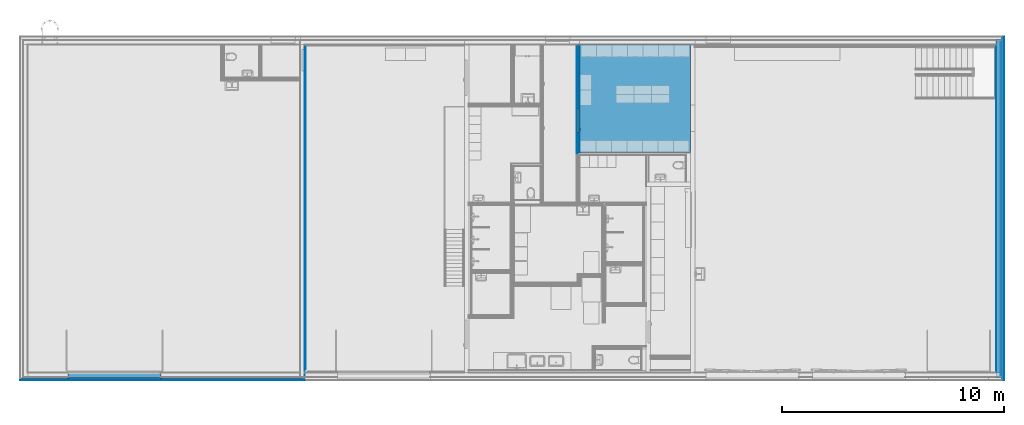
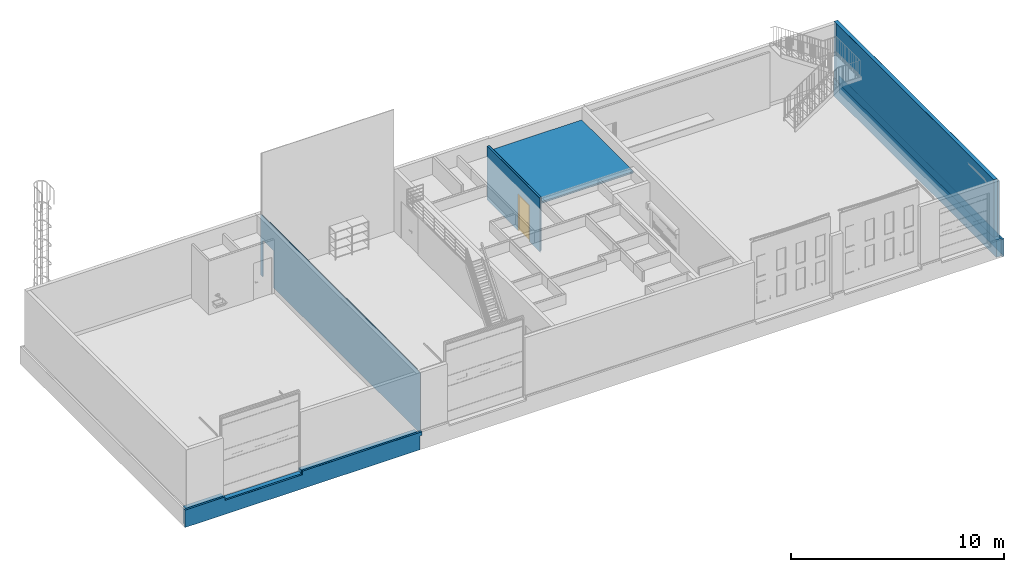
# One storey, part 10 of 67: 16 building element parts, 1 door, 3 openings, 7 elements without a shape of their own.
"""IFC4 building model written with IfcOpenShell, lengths in millimetres."""

from ifc_helpers import new_model, entity, si_unit, converted_unit, direction, frame, origin, place, context, subcontext, project, spatial, indexed_curve, outline, extrude, polygons, source, transform, mapped, material, constituent, constituent_set, type_object, type_shapes, element, fill, aggregate, save


model = new_model("IFC4")

# Units and contexts
model_context = context("Model", 3, precision=0.01, world=origin(), true_north=direction((0.0, 1.0)))
body_context = subcontext(model_context, "Body", "Model", "MODEL_VIEW")
ifc_project = project(units=[si_unit("LENGTHUNIT", "METRE", prefix="MILLI"), si_unit("AREAUNIT", "SQUARE_METRE"), si_unit("VOLUMEUNIT", "CUBIC_METRE"), converted_unit("PLANEANGLEUNIT", "DEGREE", entity("IfcPlaneAngleMeasure", 0.017453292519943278), si_unit("PLANEANGLEUNIT", "RADIAN"), dimensions=[0, 0, 0, 0, 0, 0, 0])], contexts=[model_context])

# Site, building, storey
site_placement = place(None, origin())
site = spatial("IfcSite", under=ifc_project, at=site_placement, Name="Tomtens navn", CompositionType="ELEMENT")
building_placement = place(site_placement, origin())
building = spatial("IfcBuilding", under=site, at=building_placement, Name="Byggets navn", CompositionType="ELEMENT")
storey_placement = place(building_placement, origin())
storey = spatial("IfcBuildingStorey", under=building, at=storey_placement, Name="Level 01", CompositionType="ELEMENT", Elevation=2.1993652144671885e-25)

# Door
ifc_material_1 = material(Name="Rustfritt Stål", Category="Metal")
ifc_constituent_1 = constituent(ifc_material_1, Name="Rustfritt Stål", Category="Metal", fraction=0.0016552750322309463)
ifc_material_2 = material(Name="Hvit", Category="Paint")
ifc_constituent_2 = constituent(ifc_material_2, Name="Hvit", Category="Paint", fraction=0.998344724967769)
ifc_constituent_set_1 = constituent_set(constituents=[ifc_constituent_1, ifc_constituent_2])
ifc_constituent_3 = constituent(ifc_material_1, Name="Rustfritt Stål", Category="Metal", fraction=0.0008283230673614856)
ifc_constituent_4 = constituent(ifc_material_2, Name="Panel", Category="Paint", fraction=0.4995858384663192)
ifc_constituent_5 = constituent(ifc_material_2, Name="Frame/Mullion", Category="Paint", fraction=0.4995858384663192)
ifc_constituent_set_2 = constituent_set(constituents=[ifc_constituent_3, ifc_constituent_4, ifc_constituent_5])
door_type = type_object("IfcDoorType", Name="Enfløyet:ID08 11x21M EI60CSa", OperationType="SINGLE_SWING_LEFT", PredefinedType="DOOR", material=ifc_constituent_set_2)
shared_shape = source(origin(), body_context, "Body", "SweptSolid", [
    extrude(outline(indexed_curve([(-33.33333333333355, -50.833333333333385), (24.166666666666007, -50.83333333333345), (24.16666666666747, 86.66666666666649), (9.166666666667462, 86.66666666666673), (9.166666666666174, -35.83333333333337), (-33.33333333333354, -35.83333333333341), (-33.33333333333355, -50.833333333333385)], self_intersect=False)), frame((968.6666666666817, 119.94103942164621, 980.5000000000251), z_axis=(0.0, 0.0, 1.0), x_axis=(0.0, 1.0, 0.0)), (0.0, 0.0, 1.0), 14.999999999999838),
    extrude(outline(indexed_curve([(-2.8000000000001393, -25.000000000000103), (2.799999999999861, -25.000000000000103), (2.8000000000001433, 24.999999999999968), (-2.799999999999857, 24.9999999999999), (-2.8000000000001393, -25.000000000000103)], self_intersect=False)), frame((1012.0, 83.8000000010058, 850.9862950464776), z_axis=(0.0, 0.0, 1.0), x_axis=(0.0, -1.0, 0.0)), (0.0, 0.0, 1.0), 159.01370495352),
    extrude(outline(indexed_curve([(-50.83333333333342, -33.33333333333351), (-35.83333333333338, -33.33333333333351), (-35.83333333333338, 9.166666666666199), (86.66666666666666, 9.166666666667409), (86.66666666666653, 24.1666666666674), (-50.83333333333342, 24.166666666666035), (-50.83333333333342, -33.33333333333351)], self_intersect=False)), frame((968.6666666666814, 2.0589605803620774, 980.5000000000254), z_axis=(0.0, 0.0, 1.0), x_axis=(-1.0, 0.0, 0.0)), (0.0, 0.0, 1.0), 14.999999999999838),
    extrude(outline(indexed_curve([(-25.0, -2.799999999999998), (25.0, -2.799999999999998), (24.999999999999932, 2.800000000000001), (-25.0, 2.800000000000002), (-25.0, -2.799999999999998)], self_intersect=False)), frame((1012.0, 38.20000000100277, 850.9862950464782)), (0.0, 0.0, 1.0), 159.01370495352),
    extrude(outline(indexed_curve([(-506.99999999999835, -20.0), (506.99999999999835, -20.0), (506.99999999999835, 20.0), (-506.99999999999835, 20.0), (-506.99999999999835, -20.0)], self_intersect=False)), frame((555.0, 61.000000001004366, 10.0)), (0.0, 0.0, 1.0), 2042.0),
    extrude(outline(indexed_curve([(506.99999999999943, -1035.5000000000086), (544.9999999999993, -1035.5000000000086), (544.9999999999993, 1054.5000000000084), (-544.9999999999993, 1054.5000000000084), (-544.9999999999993, -1035.5000000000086), (-506.9999999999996, -1035.5000000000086), (-506.9999999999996, 1016.5000000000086), (506.9999999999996, 1016.5000000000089), (506.99999999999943, -1035.5000000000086)], self_intersect=False)), frame((555.0, 81.00000000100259, 1035.5000000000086), z_axis=(0.0, -1.0, 0.0), x_axis=(1.0, 0.0, 0.0)), (0.0, 0.0, 1.0), 99.99999999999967),
])
type_shapes(door_type, [shared_shape])
wall_2_placement = place(storey_placement, frame((63555.35352810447, 22861.466456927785, 0.0), z_axis=(0.0, 0.0, 1.0), x_axis=(0.0, -1.0, 0.0)))
opening_2_placement = place(wall_2_placement, frame((2870.5000000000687, -60.500000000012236, 0.0)))
door_placement = place(opening_2_placement, frame((0.0, 20.0, 0.0)))
door = element("IfcDoor", 1, at=door_placement, inside=storey, type_object=door_type, material=ifc_constituent_set_1, Name="Enfløyet:ID08 11x21M EI60CSa", OverallHeight=2110.000000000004, OverallWidth=1109.9999999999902, PredefinedType="DOOR", context=body_context, shape_type="MappedRepresentation", body=[
    mapped(shared_shape, transform((0.0, 0.0, 0.0), scale=1.0)),
])

# Wall, opening, building element part
wall_type_1 = type_object("IfcWallType", Name="Basic Wall:YV02 Sandwichvegg 200", PredefinedType="STANDARD")
wall_1_placement = place(storey_placement, frame((51112.85352810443, 7861.46645692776, 0.0), z_axis=(0.0, 0.0, 1.0), x_axis=(0.0, 1.0, 0.0)))
wall_1 = element("IfcWall", 2, at=wall_1_placement, inside=storey, type_object=wall_type_1, Name="Basic Wall:YV02 Sandwichvegg 200", PredefinedType="NOTDEFINED")
opening_1_placement = place(wall_1_placement, frame((14805.0, 100.0, 0.0)))
element("IfcOpeningElement", 3, at=opening_1_placement, cuts=wall_1, Name="Enfløyet:ID13 Ståldør 10x21M EI30Sa:1", PredefinedType="OPENING", context=body_context, shape_type="SweptSolid", body=[
    extrude(outline(indexed_curve([(0.0, -8.121503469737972e-13), (2110.000000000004, -8.121503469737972e-13), (2110.000000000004, 1009.9999999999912), (0.0, 1009.9999999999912), (0.0, -8.121503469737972e-13)], self_intersect=False)), frame((0.0, 0.0, 0.0), z_axis=(0.0, -1.0, 0.0), x_axis=(0.0, 0.0, 1.0)), (0.0, 0.0, 1.0), 200.0),
])
building_element_part_1_placement = place(wall_1_placement, frame((0.0, -98.0, 0.0)))
building_element_part_1 = element("IfcBuildingElementPart", 4, at=building_element_part_1_placement, material=ifc_material_1, Name="Rustfritt Stål", context=body_context, shape_type="Tessellation", body=[
    polygons([(14805.0, 5.534690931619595e-13, 7.331217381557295e-26), (14999.99999999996, 8.712065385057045e-13, 7.331217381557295e-26), (14999.99999999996, -1.9999999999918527, 2.1993652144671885e-25), (14953.99999999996, -1.9999999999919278, 2.1993652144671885e-25), (14805.0, -1.9999999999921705, 2.1993652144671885e-25), (14804.999999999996, 5.534690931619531e-13, 200.00000000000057), (14805.0, -1.9999999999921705, 200.0000000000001), (14805.0, -1.9999999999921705, 2110.000000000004), (14805.0, 5.534690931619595e-13, 2110.000000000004), (13795.000000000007, -1.0922479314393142e-12, 7.331217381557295e-26), (13795.000000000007, -1.0922479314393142e-12, 200.00000000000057), (13795.000000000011, 6.183709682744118e-12, 2110.0000000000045), (13795.000000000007, -1.9999999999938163, 2110.000000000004), (13795.000000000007, -1.9999999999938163, 200.0), (13795.000000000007, -1.9999999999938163, 2.1993652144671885e-25), (2.7284841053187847e-12, -1.7422625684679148e-12, 7.331217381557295e-26), (349.99999999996, -1.999999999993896, 2.1993652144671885e-25), (2.7284841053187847e-12, -1.9999999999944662, 2.1993652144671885e-25), (9.094947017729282e-13, -1.742262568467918e-12, 200.0), (9.094947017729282e-13, -1.9999999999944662, 199.99999999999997), (2.7284841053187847e-12, -1.9999999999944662, 3499.999999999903), (2.7284841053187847e-12, -1.7422625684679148e-12, 3499.999999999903), (14999.99999999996, 8.712065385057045e-13, 200.0), (14999.99999999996, 8.712065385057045e-13, 3499.999999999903), (14999.99999999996, -1.9999999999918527, 3499.999999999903), (14999.99999999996, -1.9999999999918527, 200.0), (14953.99999999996, -1.9999999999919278, 3499.999999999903), (349.9999999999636, -1.999999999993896, 3499.999999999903), (199.99999999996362, -1.9999999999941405, 3499.999999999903)], [[[1, 2, 3, 4, 5]], [[6, 1, 5, 7, 8, 9]], [[10, 11, 12, 13, 14, 15]], [[16, 10, 15, 17, 18]], [[19, 16, 18, 20, 21, 22]], [[2, 23, 24, 25, 26, 3]], [[11, 10, 16, 19, 22, 24, 23, 2, 1, 6, 9, 12]], [[18, 17, 15, 14, 13, 8, 7, 5, 4, 3, 26, 25, 27, 28, 29, 21, 20]], [[12, 9, 8, 13]], [[24, 22, 21, 29, 28, 27, 25]]], closed=True),
])
aggregate(wall_1, [building_element_part_1])

# Wall, opening
wall_type_2 = type_object("IfcWallType", Name="Basic Wall:IV03 Gips Stender Forestia 120mm", PredefinedType="STANDARD")
wall_2 = element("IfcWall", 5, at=wall_2_placement, inside=storey, type_object=wall_type_2, Name="Basic Wall:IV03 Gips Stender Forestia 120mm", PredefinedType="NOTDEFINED")
opening_2 = element("IfcOpeningElement", 6, at=opening_2_placement, cuts=wall_2, Name="Enfløyet:ID08 11x21M EI60CSa:1", PredefinedType="OPENING", context=body_context, shape_type="SweptSolid", body=[
    extrude(outline(indexed_curve([(0.0, -3.0758210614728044e-27), (2110.000000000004, -3.0758210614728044e-27), (2110.000000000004, 1109.9999999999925), (0.0, 1109.9999999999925), (0.0, -3.0758210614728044e-27)], self_intersect=False)), frame((0.0, 0.0, 0.0), z_axis=(0.0, 1.0, 0.0), x_axis=(0.0, 0.0, 1.0)), (0.0, 0.0, 1.0), 120.99999999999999),
])

fill(opening_2, door)

# Building element part
ifc_material_3 = material(Name="Stender", Category="Unassigned")
building_element_part_2_placement = place(wall_2_placement, frame((4883.0, -47.49999999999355, 0.0)))
building_element_part_2 = element("IfcBuildingElementPart", 7, at=building_element_part_2_placement, material=ifc_material_3, Name="Stender", context=body_context, shape_type="Tessellation", body=[
    polygons([(-2012.4999999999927, 94.99999999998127, 200.0000000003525), (-2012.4999999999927, 94.99999999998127, 7.331217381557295e-26), (-4883.000000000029, 94.9999999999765, 7.331217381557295e-26), (-4883.0, 94.9999999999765, 200.00000000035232), (-4885.0, 94.9999999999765, 200.0000000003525), (-4885.0, 94.99999999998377, 3079.9999999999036), (-4885.0, 94.9999999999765, 3087.999999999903), (0.0, 94.99999999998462, 3087.999999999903), (0.0, 94.99999999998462, 3079.9999999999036), (3.637978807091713e-12, 94.99999999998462, 200.0000000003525), (3.637978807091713e-12, 94.99999999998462, 7.331217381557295e-26), (-902.5000000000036, 94.99999999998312, 7.331217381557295e-26), (-902.5000000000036, 94.99999999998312, 200.0000000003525), (-902.5000000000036, 94.99999999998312, 2110.000000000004), (-2012.4999999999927, 94.99999999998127, 2110.000000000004), (3.637978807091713e-12, -8.099713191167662e-12, 7.331217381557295e-26), (-902.5000000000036, -9.602046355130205e-12, 7.331217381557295e-26), (-902.5000000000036, -9.602046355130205e-12, 200.00000000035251), (-902.5000000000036, -9.602046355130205e-12, 2110.000000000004), (-2012.4999999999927, -1.1449791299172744e-11, 2110.000000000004), (-2012.4999999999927, -1.1449791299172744e-11, 200.00000000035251), (-2012.4999999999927, -1.1449791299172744e-11, 7.331217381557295e-26), (-4883.000000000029, -1.6762110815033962e-12, 7.331217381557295e-26), (-4883.0, -1.676211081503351e-12, 200.0000000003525), (3.637978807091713e-12, -8.099713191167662e-12, 200.0000000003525), (0.0, -8.099713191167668e-12, 3079.9999999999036), (3.637978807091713e-12, -8.099713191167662e-12, 3087.999999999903), (-4885.0, -1.679540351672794e-12, 3087.999999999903), (-4885.0, -8.95549796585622e-12, 3079.9999999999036), (-4885.0, -1.679540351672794e-12, 200.0000000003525)], [[[1, 2, 3, 4, 5, 6, 7, 8, 9, 10, 11, 12, 13, 14, 15]], [[12, 11, 16, 17]], [[13, 12, 17, 18, 19, 14]], [[2, 1, 15, 20, 21, 22]], [[3, 2, 22, 23]], [[4, 3, 23, 24]], [[23, 22, 21, 20, 19, 18, 17, 16, 25, 26, 27, 28, 29, 30, 24]], [[16, 11, 10, 9, 8, 27, 26, 25]], [[30, 5, 4, 24]], [[15, 14, 19, 20]], [[8, 7, 28, 27]], [[5, 30, 29, 28, 7, 6]]], closed=True),
])

ifc_material_4 = material(Name="NO_platekledning forestia", Category="Tre")
building_element_part_3_placement = place(wall_2_placement, frame((4870.0, 47.49999999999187, 0.0)))
building_element_part_3 = element("IfcBuildingElementPart", 8, at=building_element_part_3_placement, material=ifc_material_4, Name="NO_platekledning forestia", context=body_context, shape_type="Tessellation", body=[
    polygons([(-889.5000000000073, -2.3260887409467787e-12, 7.331217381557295e-26), (-889.5000000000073, 13.00000000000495, 2.1993652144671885e-25), (0.0, 13.00000000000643, 2.1993652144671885e-25), (0.0, -8.453958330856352e-13, 7.331217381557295e-26), (-889.5000000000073, 13.00000000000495, 200.0000000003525), (-889.5000000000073, -2.3260887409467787e-12, 200.00000000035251), (-889.5000000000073, -2.3260887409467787e-12, 2110.000000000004), (-889.5000000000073, 13.00000000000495, 2110.000000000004), (-1999.4999999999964, -4.173833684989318e-12, 7.331217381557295e-26), (-1999.4999999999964, 13.000000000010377, 2.1993652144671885e-25), (-1999.4999999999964, 13.000000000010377, 200.00000000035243), (-1999.4999999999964, 13.000000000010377, 2110.000000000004), (-1999.4999999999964, -4.173833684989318e-12, 2110.000000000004), (-1999.4999999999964, -4.173833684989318e-12, 200.00000000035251), (-4870.000000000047, 13.000000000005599, 2.1993652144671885e-25), (-4870.000000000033, -8.952168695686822e-12, 7.331217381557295e-26), (-4870.000000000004, -1.676211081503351e-12, 200.0000000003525), (-4870.000000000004, -1.676211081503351e-12, 3079.9999999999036), (-4870.000000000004, -8.952168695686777e-12, 3087.999999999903), (-4870.000000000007, 13.000000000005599, 3087.999999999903), (-4870.000000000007, 13.000000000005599, 3079.999999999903), (-4870.00000000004, 13.000000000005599, 200.0000000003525), (0.0, 13.00000000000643, 200.00000000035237), (0.0, 13.00000000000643, 3079.999999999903), (0.0, 13.00000000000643, 3087.999999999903), (0.0, -8.453958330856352e-13, 3087.999999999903), (0.0, -8.453958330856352e-13, 3079.9999999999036), (0.0, -8.453958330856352e-13, 200.0000000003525)], [[[1, 2, 3, 4]], [[5, 2, 1, 6, 7, 8]], [[9, 10, 11, 12, 13, 14]], [[15, 10, 9, 16]], [[15, 16, 17, 18, 19, 20, 21, 22]], [[3, 23, 24, 25, 26, 27, 28, 4]], [[2, 5, 8, 12, 11, 10, 15, 22, 21, 20, 25, 24, 23, 3]], [[13, 12, 8, 7]], [[25, 20, 19, 26]], [[6, 1, 4, 28, 27, 26, 19, 18, 17, 16, 9, 14, 13, 7]]], closed=True),
])

ifc_material_5 = material(Name="Gipsplater", Category="NOR ^ Gips")
building_element_part_4_placement = place(wall_2_placement, frame((4978.0, -60.500000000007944, 0.0)))
building_element_part_4 = element("IfcBuildingElementPart", 9, at=building_element_part_4_placement, material=ifc_material_5, Name="Gipsplater", context=body_context, shape_type="Tessellation", body=[
    polygons([(-2107.4999999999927, 13.000000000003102, 200.0000000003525), (-2107.4999999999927, 13.000000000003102, 7.331217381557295e-26), (-4978.000000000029, 13.000000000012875, 7.331217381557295e-26), (-4978.0, 13.000000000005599, 200.00000000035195), (-4978.0, 13.000000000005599, 3079.9999999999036), (-4978.0, 13.000000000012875, 3087.999999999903), (-3.637978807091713e-12, 13.00000000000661, 3087.999999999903), (0.0, 13.00000000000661, 3079.9999999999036), (3.637978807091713e-12, 13.00000000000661, 200.0000000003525), (3.637978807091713e-12, 13.00000000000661, 7.331217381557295e-26), (-997.5000000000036, 13.00000000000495, 7.331217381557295e-26), (-997.5000000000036, 13.00000000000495, 200.0000000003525), (-997.5000000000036, 13.00000000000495, 2110.000000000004), (-2107.4999999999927, 13.000000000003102, 2110.000000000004), (3.637978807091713e-12, 6.610342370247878e-12, 2.1993652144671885e-25), (-997.5000000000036, 4.949868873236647e-12, 2.1993652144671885e-25), (-997.5000000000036, 4.949868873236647e-12, 200.00000000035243), (-997.5000000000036, 4.949868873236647e-12, 2110.000000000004), (-2107.4999999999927, 1.0378081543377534e-11, 2110.0000000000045), (-2107.4999999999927, 1.0378081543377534e-11, 200.0000000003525), (-2107.4999999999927, 1.0378081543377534e-11, 2.1993652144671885e-25), (-4978.000000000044, 5.599746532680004e-12, 2.1993652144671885e-25), (-4978.000000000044, 5.599746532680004e-12, 200.00000000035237), (-4978.0000000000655, 5.599746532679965e-12, 3079.999999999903), (-4978.000000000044, 5.599746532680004e-12, 3087.999999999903), (3.637978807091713e-12, 6.610342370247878e-12, 200.0000000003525), (0.0, 6.610342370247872e-12, 3079.9999999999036), (3.637978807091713e-12, 6.610342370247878e-12, 3087.999999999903)], [[[1, 2, 3, 4, 5, 6, 7, 8, 9, 10, 11, 12, 13, 14]], [[11, 10, 15, 16]], [[12, 11, 16, 17, 18, 13]], [[2, 1, 14, 19, 20, 21]], [[3, 2, 21, 22]], [[4, 3, 22, 23, 24, 25, 6, 5]], [[23, 22, 21, 20, 19, 18, 17, 16, 15, 26, 27, 28, 25, 24]], [[26, 15, 10, 9, 8, 7, 28, 27]], [[14, 13, 18, 19]], [[7, 6, 25, 28]]], closed=True),
])

aggregate(wall_2, [building_element_part_2, building_element_part_3, building_element_part_4])

# Covering, building element parts
covering_type = type_object("IfcCoveringType", Name="Compound Ceiling:H01 257_Systemhimling 600x600, tykkelse 100", PredefinedType="CEILING")
covering_placement = place(storey_placement, origin())
covering = element("IfcCovering", 10, at=covering_placement, inside=storey, type_object=covering_type, Name="Compound Ceiling:H01 257_Systemhimling 600x600, tykkelse 100", PredefinedType="CEILING")
ifc_material_6 = material(Name="NO_Himling (type ikke bestemt)", Category="Diverse")
building_element_part_5_placement = place(covering_placement, origin())
building_element_part_5 = element("IfcBuildingElementPart", 11, at=building_element_part_5_placement, material=ifc_material_6, Name="NO_Himling (type ikke bestemt)", context=body_context, shape_type="SweptSolid", body=[
    extrude(outline(indexed_curve([(-2435.000000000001, -2503.499999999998), (2435.0000000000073, -2503.499999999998), (2434.9999999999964, 2503.499999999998), (-2435.0000000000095, 2503.499999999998), (-2435.000000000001, -2503.499999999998)], self_intersect=False)), frame((66119.35352810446, 20426.466456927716, 2720.0), z_axis=(0.0, 0.0, 1.0), x_axis=(0.0, -1.0, 0.0)), (0.0, 0.0, 1.0), 80.00000000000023),
])
ifc_material_7 = material(Name="NO_Himling 600x600", Category="Diverse")
building_element_part_6_placement = place(covering_placement, origin())
building_element_part_6 = element("IfcBuildingElementPart", 12, at=building_element_part_6_placement, material=ifc_material_7, Name="NO_Himling 600x600", context=body_context, shape_type="SweptSolid", body=[
    extrude(outline(indexed_curve([(-2435.000000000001, -2503.499999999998), (2435.0000000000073, -2503.499999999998), (2434.9999999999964, 2503.499999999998), (-2435.0000000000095, 2503.499999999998), (-2435.000000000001, -2503.499999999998)], self_intersect=False)), frame((66119.35352810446, 20426.466456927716, 2700.0), z_axis=(0.0, 0.0, 1.0), x_axis=(0.0, -1.0, 0.0)), (0.0, 0.0, 1.0), 19.999999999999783),
])
aggregate(covering, [building_element_part_5, building_element_part_6])

# Wall, building element part
wall_type_3 = type_object("IfcWallType", Name="Basic Wall:IV17 - Utforing lekt+fasadeplater", PredefinedType="STANDARD")
wall_3_placement = place(storey_placement, frame((51235.85352810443, 8211.46645692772, 0.0), z_axis=(0.0, 0.0, 1.0), x_axis=(0.0, 1.0, 0.0)))
wall_3 = element("IfcWall", 13, at=wall_3_placement, inside=storey, type_object=wall_type_3, Name="Basic Wall:IV17 - Utforing lekt+fasadeplater", PredefinedType="NOTDEFINED")
ifc_material_8 = material(Name="NO_platekledning", Category="Tre")
building_element_part_7_placement = place(wall_3_placement, frame((0.0, -13.0, 0.0)))
building_element_part_7 = element("IfcBuildingElementPart", 14, at=building_element_part_7_placement, material=ifc_material_8, Name="NO_platekledning", context=body_context, shape_type="Tessellation", body=[
    polygons([(13445.000000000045, 5.525651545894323e-12, 7.331217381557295e-26), (-1.8189894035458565e-12, 3.0956581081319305e-12, 7.331217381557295e-26), (-1.8189894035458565e-12, 3.0956581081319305e-12, 3499.999999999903), (14603.999999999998, 6.98954385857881e-12, 3499.999999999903), (14603.999999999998, 6.98954385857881e-12, 7.331217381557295e-26), (14455.000000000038, 6.801347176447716e-12, 7.331217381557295e-26), (14455.000000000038, 6.801347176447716e-12, 2110.000000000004), (13445.000000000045, 5.525651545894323e-12, 2110.0000000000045), (13445.000000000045, -9.999999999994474, 2.1993652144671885e-25), (-1.8189894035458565e-12, -9.999999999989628, 1.466243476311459e-25), (-1.8189894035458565e-12, -9.999999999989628, 3499.999999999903), (14603.999999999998, -9.99999999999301, 3499.999999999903), (14603.999999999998, -9.99999999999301, 2.1993652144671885e-25), (14455.000000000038, -9.999999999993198, 2.1993652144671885e-25), (14455.000000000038, -9.999999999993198, 2110.000000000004), (13445.000000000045, -9.999999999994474, 2110.000000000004)], [[[1, 2, 3, 4, 5, 6, 7, 8]], [[9, 10, 2, 1]], [[11, 12, 4, 3]], [[10, 11, 3, 2]], [[12, 13, 5, 4]], [[14, 15, 7, 6]], [[15, 16, 8, 7]], [[16, 9, 1, 8]], [[13, 14, 6, 5]], [[12, 11, 10, 9, 16, 15, 14, 13]]], closed=True),
])
aggregate(wall_3, [building_element_part_7])

# Wall, building element parts
wall_4_placement = place(storey_placement, frame((82522.85352810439, 8061.466456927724, 200.0), z_axis=(0.0, 0.0, 1.0), x_axis=(0.0, 1.0, 0.0)))
wall_4 = element("IfcWall", 15, at=wall_4_placement, inside=storey, type_object=wall_type_1, Name="Basic Wall:YV02 Sandwichvegg 200", PredefinedType="NOTDEFINED")
ifc_material_9 = material(Name="Metall - Malt overflate - Mørk Grå, Matt", Category="Unassigned")
building_element_part_8_placement = place(wall_4_placement, origin())
building_element_part_8 = element("IfcBuildingElementPart", 16, at=building_element_part_8_placement, material=ifc_material_9, Name="Metall - Malt overflate - Mørk Grå, Matt", context=body_context, shape_type="SweptSolid", body=[
    extrude(outline(indexed_curve([(-7599.000000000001, -0.9999999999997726), (7599.000000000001, -0.9999999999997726), (7599.000000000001, 1.0000000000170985), (-7599.000000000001, 1.0000000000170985), (-7599.000000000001, -0.9999999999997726)], self_intersect=False)), frame((7401.0, -99.0, 0.0), z_axis=(0.0, 0.0, 1.0), x_axis=(-1.0, 0.0, 0.0)), (0.0, 0.0, 1.0), 3299.999999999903),
])
building_element_part_9_placement = place(wall_4_placement, origin())
building_element_part_9 = element("IfcBuildingElementPart", 17, at=building_element_part_9_placement, material=ifc_material_1, Name="Rustfritt Stål", context=body_context, shape_type="SweptSolid", body=[
    extrude(outline(indexed_curve([(-7400.999999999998, -0.9999999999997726), (7401.0, -0.9999999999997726), (7401.000000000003, 0.9999999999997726), (-7400.999999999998, 0.9999999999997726), (-7400.999999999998, -0.9999999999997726)], self_intersect=False)), frame((7401.0, 99.0, 0.0), z_axis=(0.0, 0.0, 1.0), x_axis=(-1.0, 0.0, 0.0)), (0.0, 0.0, 1.0), 3299.999999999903),
])
ifc_material_10 = material(Name="NO_Isolasjon - Fast", Category="Isolasjon")
building_element_part_10_placement = place(wall_4_placement, origin())
building_element_part_10 = element("IfcBuildingElementPart", 18, at=building_element_part_10_placement, material=ifc_material_10, Name="NO_Isolasjon - Fast", context=body_context, shape_type="SweptSolid", body=[
    extrude(outline(indexed_curve([(-7499.999999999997, -97.99999999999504), (7499.999999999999, -97.99999999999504), (7499.999999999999, 97.99999999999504), (-7499.999999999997, 97.99999999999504), (-7499.999999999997, -97.99999999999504)], self_intersect=False)), frame((7498.0, 0.0, 0.0), z_axis=(0.0, 0.0, 1.0), x_axis=(-1.0, 0.0, 0.0)), (0.0, 0.0, 1.0), 3299.999999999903),
])
aggregate(wall_4, [building_element_part_8, building_element_part_9, building_element_part_10])

wall_type_4 = type_object("IfcWallType", Name="Basic Wall:RIB YV-Betong_250mm+100iso", PredefinedType="STANDARD")
wall_5_placement = place(storey_placement, frame((82598.8535281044, 23213.46645692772, -800.0), z_axis=(0.0, 0.0, 1.0), x_axis=(0.0, -1.0, 0.0)))
wall_5 = element("IfcWall", 19, at=wall_5_placement, inside=storey, type_object=wall_type_4, Name="Basic Wall:RIB YV-Betong_250mm+100iso", PredefinedType="NOTDEFINED")
ifc_material_11 = material(Name="NO_Maling - mørk grå", Category="Overflatebehandling")
building_element_part_11_placement = place(wall_5_placement, origin())
building_element_part_11 = element("IfcBuildingElementPart", 20, at=building_element_part_11_placement, material=ifc_material_11, Name="NO_Maling - mørk grå", context=body_context, shape_type="SweptSolid", body=[
    extrude(outline(indexed_curve([(-7751.999999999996, -0.9999999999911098), (7751.999999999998, -0.9999999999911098), (7752.000000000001, 1.0000000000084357), (-7751.999999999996, 1.0000000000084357), (-7751.999999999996, -0.9999999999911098)], self_intersect=False)), frame((7752.0, 175.0, 0.0)), (0.0, 0.0, 1.0), 1000.0000000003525),
])
building_element_part_12_placement = place(wall_5_placement, origin())
building_element_part_12 = element("IfcBuildingElementPart", 21, at=building_element_part_12_placement, material=ifc_material_10, Name="NO_Isolasjon - Fast", context=body_context, shape_type="SweptSolid", body=[
    extrude(outline(indexed_curve([(-7749.999999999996, -49.99999999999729), (7749.999999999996, -49.99999999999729), (7749.999999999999, 49.99999999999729), (-7749.999999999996, 49.99999999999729), (-7749.999999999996, -49.99999999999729)], self_intersect=False)), frame((7752.0, 124.0, 0.0)), (0.0, 0.0, 1.0), 1000.0000000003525),
])
ifc_material_12 = material(Name="231_Vegg 250mm_Betong", Category="NOR ^ Betong")
building_element_part_13_placement = place(wall_5_placement, origin())
building_element_part_13 = element("IfcBuildingElementPart", 22, at=building_element_part_13_placement, material=ifc_material_12, Name="231_Vegg 250mm_Betong", context=body_context, shape_type="SweptSolid", body=[
    extrude(outline(indexed_curve([(-7649.999999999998, -125.0000000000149), (7650.0, -125.0000000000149), (7650.0, 124.99999999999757), (-7649.999999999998, 124.99999999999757), (-7649.999999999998, -125.0000000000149)], self_intersect=False)), frame((7752.0, -51.0, 0.0)), (0.0, 0.0, 1.0), 1000.0000000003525),
])
aggregate(wall_5, [building_element_part_11, building_element_part_12, building_element_part_13])

# Wall, opening, building element parts
wall_6_placement = place(storey_placement, frame((51112.85352810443, 7885.466456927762, -800.0), z_axis=(0.0, 0.0, 1.0), x_axis=(-1.0, 0.0, 0.0)))
wall_6 = element("IfcWall", 23, at=wall_6_placement, inside=storey, type_object=wall_type_4, Name="Basic Wall:RIB YV-Betong_250mm+100iso", PredefinedType="NOTDEFINED")
opening_3_placement = place(wall_6_placement, frame((10590.0, 176.0, 800.0)))
element("IfcOpeningElement", 24, at=opening_3_placement, cuts=wall_6, Name="Garage Door_9:4200 x 4500 P02B:1", PredefinedType="OPENING", context=body_context, shape_type="SweptSolid", body=[
    extrude(outline(indexed_curve([(0.0, -5.414335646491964e-13), (4499.999999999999, -5.414335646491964e-13), (4499.999999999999, 4199.999999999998), (0.0, 4199.999999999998), (0.0, -5.414335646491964e-13)], self_intersect=False)), frame((0.0, 0.0, 0.0), z_axis=(0.0, -1.0, 0.0), x_axis=(0.0, 0.0, 1.0)), (0.0, 0.0, 1.0), 352.00000000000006),
])
building_element_part_14_placement = place(wall_6_placement, frame((12752.0, 176.0, 0.0)))
building_element_part_14 = element("IfcBuildingElementPart", 25, at=building_element_part_14_placement, material=ifc_material_11, Name="NO_Maling - mørk grå", context=body_context, shape_type="Tessellation", body=[
    polygons([(-6362.000000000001, -2.0000000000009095, 800.0), (-2162.0000000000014, -2.0, 800.0), (-2162.0000000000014, 0.0, 800.0), (-6362.000000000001, -9.094947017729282e-13, 800.0), (-12752.000000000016, 0.0, 0.0), (-1.3383019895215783e-12, 0.0, 0.0), (-1.3386491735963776e-12, -2.0000000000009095, 0.0), (-12752.000000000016, -2.0, 0.0), (-12752.000000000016, -2.0, 800.0), (-12752.000000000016, 0.0, 800.0), (-1.3383019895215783e-12, 0.0, 800.0), (-1.3383019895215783e-12, 0.0, 1000.0000000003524), (-1.3386491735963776e-12, -2.0000000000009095, 1000.0000000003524), (-1.3386491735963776e-12, -2.0000000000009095, 800.0), (-2162.0000000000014, -2.0, 1000.0000000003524), (-6362.000000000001, -2.0000000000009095, 1000.0000000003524), (-12852.000000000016, -2.0, 1000.0000000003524), (-12852.000000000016, -2.0, 800.0), (-12852.000000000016, 0.0, 800.0), (-12852.000000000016, 0.0, 1000.0000000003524), (-6362.000000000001, -9.094947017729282e-13, 1000.0000000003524), (-2162.0000000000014, 0.0, 1000.0000000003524)], [[[1, 2, 3, 4]], [[5, 6, 7, 8]], [[5, 8, 9, 10]], [[7, 6, 11, 12, 13, 14]], [[8, 7, 14, 13, 15, 2, 1, 16, 17, 18, 9]], [[6, 5, 10, 19, 20, 21, 4, 3, 22, 12, 11]], [[18, 19, 10, 9]], [[21, 20, 17, 16]], [[4, 21, 16, 1]], [[22, 3, 2, 15]], [[12, 22, 15, 13]], [[19, 18, 17, 20]]], closed=True),
])
building_element_part_15_placement = place(wall_6_placement, frame((12750.0, 174.0, 0.0)))
building_element_part_15 = element("IfcBuildingElementPart", 26, at=building_element_part_15_placement, material=ifc_material_10, Name="NO_Isolasjon - Fast", context=body_context, shape_type="Tessellation", body=[
    polygons([(-2160.0000000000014, -9.094947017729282e-13, 800.0), (-6360.000000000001, -1.8189894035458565e-12, 800.0), (-6360.000000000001, -100.00000000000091, 800.0), (-2160.0000000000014, -99.99999999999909, 800.0), (-12750.000000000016, -100.00000000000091, 0.0), (-12750.000000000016, -9.094947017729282e-13, 0.0), (-1.3386491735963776e-12, -1.8189894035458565e-12, 0.0), (-1.3560083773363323e-12, -100.0, 0.0), (-12750.000000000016, -100.00000000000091, 800.0), (-12750.000000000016, -9.094947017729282e-13, 800.0), (-12848.000000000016, -9.094947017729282e-13, 800.0), (-12848.000000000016, -9.094947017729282e-13, 1000.0000000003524), (-6360.000000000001, -1.8189894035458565e-12, 1000.0000000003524), (-2160.0000000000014, -9.094947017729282e-13, 1000.0000000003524), (-1.3386491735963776e-12, -1.8189894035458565e-12, 1000.0000000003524), (-1.3386491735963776e-12, -1.8189894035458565e-12, 800.0), (-1.3560083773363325e-12, -100.00000000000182, 800.0), (-1.3560083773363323e-12, -100.0, 1000.0000000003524), (-2160.0000000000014, -99.99999999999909, 1000.0000000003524), (-6360.000000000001, -100.00000000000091, 1000.0000000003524), (-12848.000000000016, -100.00000000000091, 1000.0000000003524), (-12848.000000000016, -100.00000000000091, 800.0)], [[[1, 2, 3, 4]], [[5, 6, 7, 8]], [[6, 5, 9, 10]], [[7, 6, 10, 11, 12, 13, 2, 1, 14, 15, 16]], [[5, 8, 17, 18, 19, 4, 3, 20, 21, 22, 9]], [[8, 7, 16, 15, 18, 17]], [[22, 11, 10, 9]], [[13, 12, 21, 20]], [[2, 13, 20, 3]], [[19, 14, 1, 4]], [[18, 15, 14, 19]], [[11, 22, 21, 12]]], closed=True),
])
building_element_part_16_placement = place(wall_6_placement, frame((12650.0, 74.0, 0.0)))
building_element_part_16 = element("IfcBuildingElementPart", 27, at=building_element_part_16_placement, material=ifc_material_12, Name="231_Vegg 250mm_Betong", context=body_context, shape_type="Tessellation", body=[
    polygons([(-12650.000000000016, 0.0, 800.0), (-12650.000000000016, -250.0000000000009, 800.0), (-12552.000000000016, -250.0000000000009, 800.0), (-12552.000000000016, 0.0, 800.0), (5.9199492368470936e-12, 9.094947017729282e-13, 0.0), (-12650.000000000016, 0.0, 0.0), (-12552.000000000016, 0.0, 1000.0000000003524), (-6260.000000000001, 0.0, 1000.0000000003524), (-6260.000000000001, 0.0, 800.0), (-2060.0000000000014, 1.8189894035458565e-12, 800.0), (-2060.0000000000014, 1.8189894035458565e-12, 1000.0000000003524), (5.9199492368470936e-12, 9.094947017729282e-13, 1000.0000000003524), (5.9199492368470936e-12, -9.094947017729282e-13, 800.0), (5.876551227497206e-12, -250.0000000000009, 0.0), (-249.99999999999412, -250.0000000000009, 0.0), (-12650.000000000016, -250.0000000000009, 0.0), (5.876551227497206e-12, -250.0000000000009, 800.0), (5.876551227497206e-12, -250.0000000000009, 1000.0000000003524), (-249.99999999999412, -250.0000000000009, 1000.0000000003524), (-2060.0000000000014, -250.0, 1000.0000000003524), (-2060.0000000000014, -250.0, 800.0), (-6260.000000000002, -250.0, 800.0), (-6260.000000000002, -250.0, 1000.0000000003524), (-12552.000000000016, -250.0000000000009, 1000.0000000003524)], [[[1, 2, 3, 4]], [[5, 6, 1, 4, 7, 8, 9, 10, 11, 12, 13]], [[6, 5, 14, 15, 16]], [[1, 6, 16, 2]], [[16, 15, 14, 17, 18, 19, 20, 21, 22, 23, 24, 3, 2]], [[17, 14, 5, 13, 12, 18]], [[8, 7, 24, 23]], [[9, 8, 23, 22]], [[11, 10, 21, 20]], [[12, 11, 20, 19, 18]], [[7, 4, 3, 24]], [[10, 9, 22, 21]]], closed=True),
])
aggregate(wall_6, [building_element_part_14, building_element_part_15, building_element_part_16])

save(model, "model.ifc")
